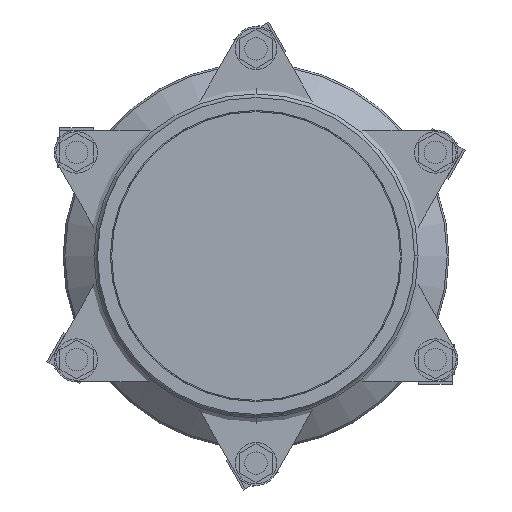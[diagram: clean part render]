
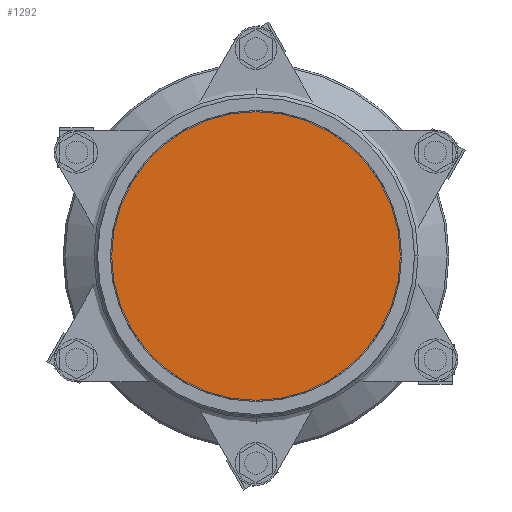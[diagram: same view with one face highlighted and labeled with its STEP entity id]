
A CAD part, left-side view. The second image highlights one B-rep face of the part: STEP entity #1292.
In plain terms, the highlighted planar face has unit normal (-1, 0, 0).
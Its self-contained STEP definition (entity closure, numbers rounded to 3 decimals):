
#1292=ADVANCED_FACE('',(#2578),#2579,.T.);
#2578=FACE_OUTER_BOUND('',#4105,.T.);
#2579=PLANE('',#4106);
#4105=EDGE_LOOP('',(#6807,#6808));
#4106=AXIS2_PLACEMENT_3D('',#6809,#6810,#6811);
#6807=ORIENTED_EDGE('',*,*,#9209,.T.);
#6808=ORIENTED_EDGE('',*,*,#9102,.T.);
#6809=CARTESIAN_POINT('',(-692.,-509.412,364.084));
#6810=DIRECTION('',(-1.0,0.0,0.));
#6811=DIRECTION('',(0.,0.0,1.0));
#9102=EDGE_CURVE('',#11016,#11014,#11017,.T.);
#9209=EDGE_CURVE('',#11014,#11016,#11172,.T.);
#11014=VERTEX_POINT('',#13509);
#11016=VERTEX_POINT('',#13512);
#11017=CIRCLE('',#13513,141.5);
#11172=CIRCLE('',#13722,141.5);
#13509=CARTESIAN_POINT('',(-692.,-509.412,222.584));
#13512=CARTESIAN_POINT('',(-692.,-509.412,505.584));
#13513=AXIS2_PLACEMENT_3D('',#15508,#15509,#15510);
#13722=AXIS2_PLACEMENT_3D('',#15637,#15638,#15639);
#15508=CARTESIAN_POINT('',(-692.,-509.412,364.084));
#15509=DIRECTION('',(-1.0,0.0,0.));
#15510=DIRECTION('',(0.,0.0,-1.0));
#15637=CARTESIAN_POINT('',(-692.,-509.412,364.084));
#15638=DIRECTION('',(-1.0,0.0,0.));
#15639=DIRECTION('',(0.,0.0,-1.0));
